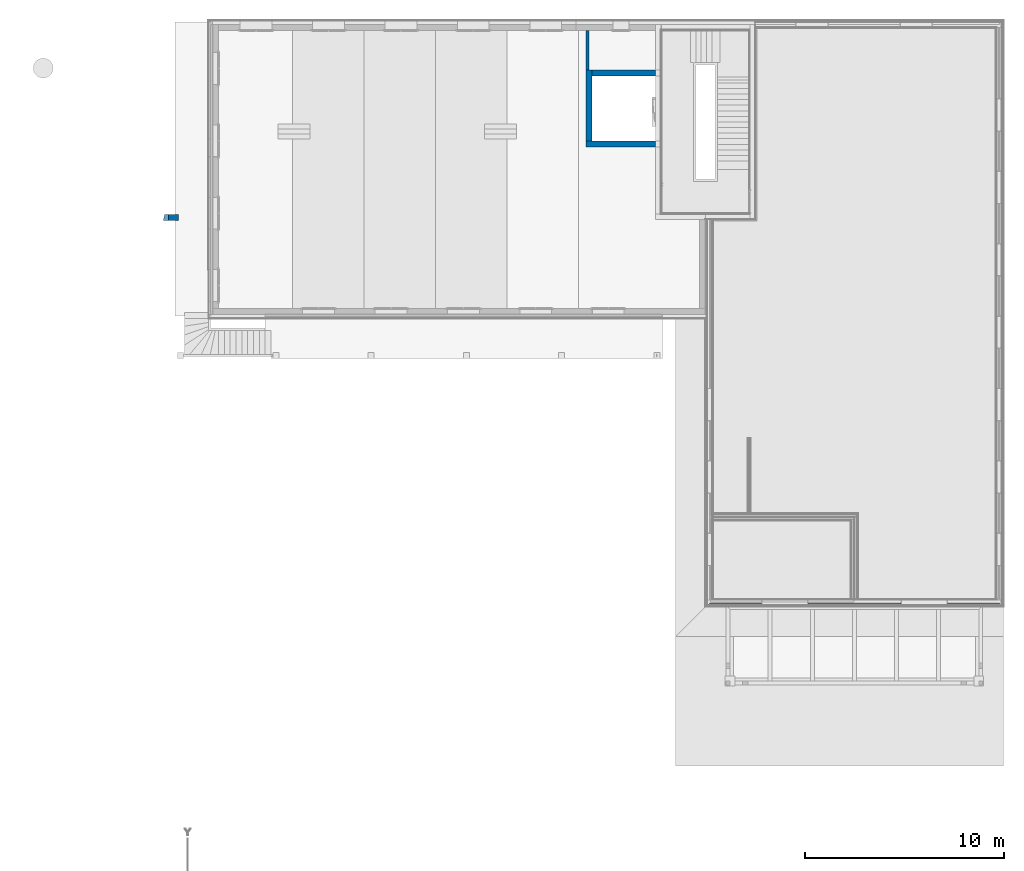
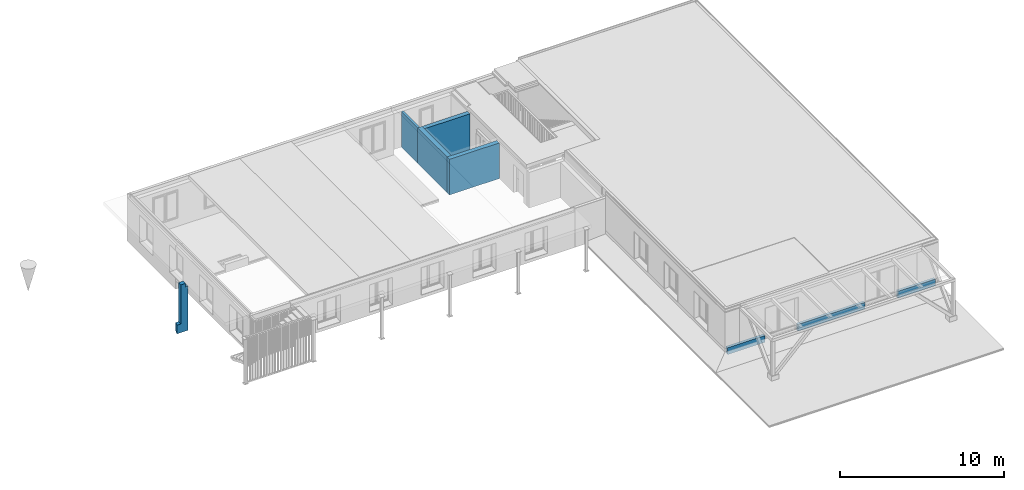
# One storey, part 7 of 20: 8 walls.
"""IFC4 building model written with IfcOpenShell, lengths in millimetres."""

from ifc_helpers import new_model, entity, si_unit, converted_unit, derived_unit, direction, frame, origin_with_axes, place, context, subcontext, project, spatial, polygons, material, constituent, constituent_set, type_object, element, save


model = new_model("IFC4")

# Units and contexts
model_context = context("Model", 3, precision=0.01, world=origin_with_axes(), true_north=direction((0.0, 1.0)))
body_context = subcontext(model_context, "Body", "Model", "MODEL_VIEW")
ifc_project = project(units=[si_unit("LENGTHUNIT", "METRE", prefix="MILLI"), si_unit("AREAUNIT", "SQUARE_METRE"), si_unit("VOLUMEUNIT", "CUBIC_METRE"), converted_unit("PLANEANGLEUNIT", "DEGREE", entity("IfcPlaneAngleMeasure", 0.0174532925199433), si_unit("PLANEANGLEUNIT", "RADIAN"), dimensions=[0, 0, 0, 0, 0, 0, 0]), converted_unit("TIMEUNIT", "Year", entity("IfcTimeMeasure", 31557600.0), si_unit("TIMEUNIT", "SECOND"), dimensions=[0, 0, 1, 0, 0, 0, 0]), si_unit("MASSUNIT", "GRAM", prefix="KILO"), si_unit("THERMODYNAMICTEMPERATUREUNIT", "DEGREE_CELSIUS"), si_unit("LUMINOUSINTENSITYUNIT", "LUMEN"), si_unit("ENERGYUNIT", "JOULE", prefix="MEGA"), derived_unit("THERMALCONDUCTANCEUNIT", [(si_unit("POWERUNIT", "WATT"), 1), (si_unit("LENGTHUNIT", "METRE"), -1), (si_unit("THERMODYNAMICTEMPERATUREUNIT", "KELVIN"), -1)]), derived_unit("SPECIFICHEATCAPACITYUNIT", [(si_unit("ENERGYUNIT", "JOULE"), 1), (si_unit("MASSUNIT", "GRAM", prefix="KILO"), -1), (si_unit("THERMODYNAMICTEMPERATUREUNIT", "KELVIN"), -1)]), derived_unit("MASSDENSITYUNIT", [(si_unit("MASSUNIT", "GRAM", prefix="KILO"), 1), (si_unit("VOLUMEUNIT", "CUBIC_METRE"), -1)])], contexts=[model_context])

# Site, building, storey
site_placement = place(None, origin_with_axes())
site = spatial("IfcSite", under=ifc_project, at=site_placement, Name="Gelände", CompositionType="ELEMENT")
building_placement = place(site_placement, origin_with_axes())
building = spatial("IfcBuilding", under=site, at=building_placement, Name="Gebäude", CompositionType="ELEMENT")
storey_placement = place(building_placement, frame((0.0, 0.0, 5.198845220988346e-05), z_axis=(0.0, 0.0, 1.0), x_axis=(1.0, 0.0, 0.0)))
storey = spatial("IfcBuildingStorey", under=building, at=storey_placement, Name="EG", CompositionType="ELEMENT", Elevation=0.0)

# Walls
ifc_material_1 = material(Name="MW, Backstein, Sichtmauerwerk")
ifc_constituent_1 = constituent(ifc_material_1, Name="MW, Backstein, Sichtmauerwerk")
ifc_constituent_set_1 = constituent_set(constituents=[ifc_constituent_1], Name="Innenwand Typ 02")
wall_type_1 = type_object("IfcWallType", Name="Innenwand Typ 02 150", PredefinedType="NOTDEFINED")
wall_1_placement = place(storey_placement, frame((11928.99744477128, 35447.59728131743, 0.0), z_axis=(0.0, 0.0, 1.0), x_axis=(0.0, 1.0, 0.0)))
element("IfcWall", 1, at=wall_1_placement, inside=storey, type_object=wall_type_1, material=ifc_constituent_set_1, Name="Wand-016", PredefinedType="NOTDEFINED", context=body_context, shape_type="Tessellation", body=[
    polygons([(1990.000000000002, 0.0, 2649.999948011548), (0.0, 0.0, 2649.999948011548), (0.0, -150.0000000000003, 2649.999948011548), (1990.000000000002, -150.0000000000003, 2649.999948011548), (1990.000000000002, 0.0, 0.0), (0.0, 0.0, 0.0), (0.0, -150.0000000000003, 0.0), (1990.000000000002, -150.0000000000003, 0.0)], [[[1, 2, 3, 4]], [[5, 6, 2, 1]], [[6, 7, 3, 2]], [[4, 3, 7, 8]], [[8, 5, 1, 4]], [[8, 7, 6, 5]]], closed=True),
])
ifc_material_2 = material(Name="Beton bewehrt")
ifc_constituent_2 = constituent(ifc_material_2, Name="Beton bewehrt")
ifc_constituent_set_2 = constituent_set(constituents=[ifc_constituent_2], Name="Innenwand Typ 08")
wall_type_2 = type_object("IfcWallType", Name="Innenwand Typ 08 300", PredefinedType="NOTDEFINED")
wall_2_placement = place(storey_placement, frame((11928.99744477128, 31572.59728131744, 0.0), z_axis=(0.0, 0.0, 1.0), x_axis=(1.0, 0.0, 0.0)))
element("IfcWall", 2, at=wall_2_placement, inside=storey, type_object=wall_type_2, material=ifc_constituent_set_2, Name="Wand-014", PredefinedType="NOTDEFINED", context=body_context, shape_type="Tessellation", body=[
    polygons([(0.0, 300.0000000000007, 0.0), (3500.0, 300.0000000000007, 0.0), (3500.0, 0.0, 0.0), (0.0, 0.0, 0.0), (0.0, 300.0000000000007, 2649.999948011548), (3500.0, 300.0000000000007, 2649.999948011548), (3500.0, 0.0, 2649.999948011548), (0.0, 0.0, 2649.999948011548)], [[[1, 2, 3, 4]], [[5, 6, 2, 1]], [[3, 2, 6, 7]], [[4, 3, 7, 8]], [[5, 1, 4, 8]], [[8, 7, 6, 5]]], closed=True),
])
ifc_constituent_3 = constituent(ifc_material_2, Name="Beton bewehrt")
ifc_constituent_set_3 = constituent_set(constituents=[ifc_constituent_3], Name="Innenwand Typ 08")
wall_3_placement = place(storey_placement, frame((11928.99744477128, 35447.59728131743, 0.0), z_axis=(0.0, 0.0, 1.0), x_axis=(0.0, -1.0, 0.0)))
element("IfcWall", 3, at=wall_3_placement, inside=storey, type_object=wall_type_2, material=ifc_constituent_set_3, Name="Wand-014", PredefinedType="NOTDEFINED", context=body_context, shape_type="Tessellation", body=[
    polygons([(0.0, 300.0000000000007, 0.0), (3574.999999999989, 299.9999999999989, 0.0), (3574.999999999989, 0.0, 0.0), (0.0, 0.0, 0.0), (0.0, 300.0000000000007, 2649.999948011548), (3574.999999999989, 299.9999999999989, 2649.999948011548), (3574.999999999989, 0.0, 2649.999948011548), (0.0, 0.0, 2649.999948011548)], [[[1, 2, 3, 4]], [[5, 6, 2, 1]], [[7, 3, 2, 6]], [[4, 3, 7, 8]], [[8, 5, 1, 4]], [[8, 7, 6, 5]]], closed=True),
])
ifc_constituent_4 = constituent(ifc_material_2, Name="Beton bewehrt")
ifc_constituent_set_4 = constituent_set(constituents=[ifc_constituent_4], Name="Innenwand Typ 08")
wall_4_placement = place(storey_placement, frame((11928.99744477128, 35447.59728131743, 0.0), z_axis=(0.0, 0.0, 1.0), x_axis=(1.0, 0.0, 0.0)))
element("IfcWall", 4, at=wall_4_placement, inside=storey, type_object=wall_type_2, material=ifc_constituent_set_4, Name="Wand-014", PredefinedType="NOTDEFINED", context=body_context, shape_type="Tessellation", body=[
    polygons([(300.0000000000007, -299.9999999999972, 2649.999948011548), (3500.0, -299.9999999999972, 2649.999948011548), (3500.0, 0.0, 2649.999948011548), (300.0000000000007, 0.0, 2649.999948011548), (300.0000000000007, -299.9999999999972, 0.0), (3500.0, -299.9999999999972, 0.0), (3500.0, 0.0, 0.0), (300.0000000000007, 0.0, 0.0)], [[[1, 2, 3, 4]], [[5, 6, 2, 1]], [[3, 2, 6, 7]], [[4, 3, 7, 8]], [[5, 1, 4, 8]], [[8, 7, 6, 5]]], closed=True),
])
ifc_constituent_5 = constituent(ifc_material_2, Name="Beton bewehrt")
ifc_constituent_set_5 = constituent_set(constituents=[ifc_constituent_5], Name="Aussenwand Typ 07 - Brüstung")
wall_type_3 = type_object("IfcWallType", Name="Aussenwand Typ 07 - Brüstung 200", PredefinedType="NOTDEFINED")
wall_5_placement = place(storey_placement, frame((23081.66411143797, 8447.597281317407, 0.0), z_axis=(0.0, 0.0, 1.0), x_axis=(1.0, 0.0, 0.0)))
element("IfcWall", 5, at=wall_5_placement, inside=storey, type_object=wall_type_3, material=ifc_constituent_set_5, Name="Wand-015", PredefinedType="NOTDEFINED", context=body_context, shape_type="Tessellation", body=[
    polygons([(0.0, 199.9999999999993, 0.0), (4694.666665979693, 200.0000000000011, 0.0), (4694.666665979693, 0.0, 0.0), (0.0, 0.0, 0.0), (0.0, 199.9999999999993, 500.0), (4694.666665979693, 200.0000000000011, 500.0), (4694.666665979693, 0.0, 500.0), (0.0, 0.0, 500.0)], [[[1, 2, 3, 4]], [[5, 6, 2, 1]], [[3, 2, 6, 7]], [[4, 3, 7, 8]], [[5, 1, 4, 8]], [[8, 7, 6, 5]]], closed=True),
])
ifc_constituent_6 = constituent(ifc_material_2, Name="Beton bewehrt")
ifc_constituent_set_6 = constituent_set(constituents=[ifc_constituent_6], Name="Aussenwand Typ 07 - Brüstung")
wall_6_placement = place(storey_placement, frame((30108.33077741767, 8447.597281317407, 0.0), z_axis=(0.0, 0.0, 1.0), x_axis=(1.0, 0.0, 0.0)))
element("IfcWall", 6, at=wall_6_placement, inside=storey, type_object=wall_type_3, material=ifc_constituent_set_6, Name="Wand-015", PredefinedType="NOTDEFINED", context=body_context, shape_type="Tessellation", body=[
    polygons([(2620.666667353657, 199.9999999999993, 0.0), (2620.666667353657, 0.0, 0.0), (0.0, 0.0, 0.0), (0.0, 199.9999999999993, 0.0), (2620.666667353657, 200.0000000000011, 500.0), (2620.666667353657, 0.0, 500.0), (0.0, 0.0, 500.0), (0.0, 199.9999999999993, 500.0)], [[[1, 2, 3, 4]], [[2, 1, 5, 6]], [[2, 6, 7, 3]], [[8, 4, 3, 7]], [[5, 1, 4, 8]], [[6, 5, 8, 7]]], closed=True),
])
ifc_constituent_7 = constituent(ifc_material_2, Name="Beton bewehrt")
ifc_constituent_set_7 = constituent_set(constituents=[ifc_constituent_7], Name="Aussenwand Typ 07 - Brüstung")
wall_7_placement = place(storey_placement, frame((17928.99744477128, 8447.597281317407, 0.0), z_axis=(0.0, 0.0, 1.0), x_axis=(1.0, 0.0, 0.0)))
element("IfcWall", 7, at=wall_7_placement, inside=storey, type_object=wall_type_3, material=ifc_constituent_set_7, Name="Wand-015", PredefinedType="NOTDEFINED", context=body_context, shape_type="Tessellation", body=[
    polygons([(199.9999999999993, 199.9999999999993, 0.0), (2820.666666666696, 199.9999999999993, 0.0), (2820.666666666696, 0.0, 0.0), (199.9999999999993, 0.0, 0.0), (199.9999999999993, 199.9999999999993, 500.0), (2820.666666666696, 200.0000000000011, 500.0), (2820.666666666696, 0.0, 500.0), (199.9999999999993, 0.0, 500.0)], [[[1, 2, 3, 4]], [[5, 6, 2, 1]], [[3, 2, 6, 7]], [[4, 3, 7, 8]], [[5, 1, 4, 8]], [[8, 7, 6, 5]]], closed=True),
])
wall_type_4 = type_object("IfcWallType", Name="Beton bewehrt 300", PredefinedType="NOTDEFINED")
wall_8_placement = place(storey_placement, frame((-8571.002555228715, 27897.59725747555, -640.0000011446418), z_axis=(0.0, 0.0, 1.0), x_axis=(-1.0, 0.0, 0.0)))
element("IfcWall", 8, at=wall_8_placement, inside=storey, type_object=wall_type_4, material=ifc_material_2, Name="Wand-013", PredefinedType="NOTDEFINED", context=body_context, shape_type="Tessellation", body=[
    polygons([(500.0, -300.0000000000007, 3539.999949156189), (170.0016262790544, -300.0000000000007, 3539.999949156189), (170.0016262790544, -300.0000000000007, 3289.999949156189), (0.0, -300.0000000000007, 3289.999949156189), (0.0, -300.0000000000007, 0.0), (691.7448967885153, -300.0000000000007, 0.0), (691.7448967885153, -300.0000000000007, 640.0000011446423), (500.0, -300.0000000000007, 640.0000011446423), (500.0, 0.0, 3539.999949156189), (170.0016262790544, 0.0, 3539.999949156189), (170.0016262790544, -1.617689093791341e-06, 3289.999949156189), (0.0, 0.0, 3289.999949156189), (0.0, 0.0, 0.0), (768.3406420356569, 2.217962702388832e-06, 0.0), (768.3406410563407, -1.617689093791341e-06, 640.0000011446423), (500.0, 0.0, 640.0000011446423)], [[[1, 2, 3, 4, 5, 6, 7, 8]], [[9, 10, 2, 1]], [[11, 3, 2, 10]], [[11, 12, 4, 3]], [[5, 4, 12, 13]], [[5, 13, 14, 6]], [[6, 14, 15, 7]], [[16, 8, 7, 15]], [[1, 8, 16, 9]], [[12, 11, 10, 9, 16, 15, 14, 13]]], closed=True),
])

save(model, "model.ifc")
